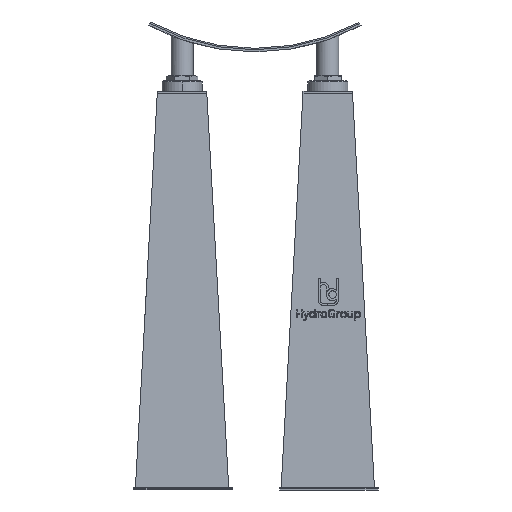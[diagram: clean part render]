
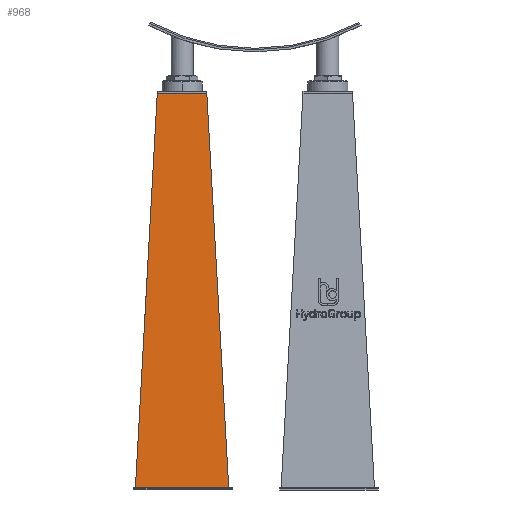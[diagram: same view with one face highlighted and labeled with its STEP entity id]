
A CAD part, front view. The second image highlights one B-rep face of the part: STEP entity #968.
In plain terms, the highlighted planar face has unit normal (0, -0.999, 0.055).
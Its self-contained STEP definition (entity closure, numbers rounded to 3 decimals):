
#968=ADVANCED_FACE('',(#2100),#2101,.F.);
#2100=FACE_OUTER_BOUND('',#3480,.T.);
#2101=PLANE('',#3481);
#3480=EDGE_LOOP('',(#6275,#6276,#6277,#6278));
#3481=AXIS2_PLACEMENT_3D('',#6279,#6280,#6281);
#6275=ORIENTED_EDGE('',*,*,#9015,.F.);
#6276=ORIENTED_EDGE('',*,*,#9049,.F.);
#6277=ORIENTED_EDGE('',*,*,#9043,.F.);
#6278=ORIENTED_EDGE('',*,*,#8769,.T.);
#6279=CARTESIAN_POINT('',(159.177,233.546,445.729));
#6280=DIRECTION('',(0.,0.998,-0.055));
#6281=DIRECTION('',(1.0,0.,0.));
#8769=EDGE_CURVE('',#10478,#10475,#10479,.F.);
#9015=EDGE_CURVE('',#10802,#10475,#10804,.F.);
#9043=EDGE_CURVE('',#10478,#10837,#10842,.T.);
#9049=EDGE_CURVE('',#10837,#10802,#10848,.T.);
#10475=VERTEX_POINT('',#13722);
#10478=VERTEX_POINT('',#13726);
#10479=LINE('',#13727,#13728);
#10802=VERTEX_POINT('',#14313);
#10804=LINE('',#14316,#14317);
#10837=VERTEX_POINT('',#14365);
#10842=LINE('',#14373,#14374);
#10848=LINE('',#14381,#14382);
#13722=CARTESIAN_POINT('',(-33.828,173.536,-636.437));
#13726=CARTESIAN_POINT('',(26.172,233.536,445.563));
#13727=CARTESIAN_POINT('',(26.389,233.754,449.477));
#13728=VECTOR('',#16732,1.);
#14313=CARTESIAN_POINT('',(222.181,173.536,-636.437));
#14316=CARTESIAN_POINT('',(126.677,173.536,-636.437));
#14317=VECTOR('',#16908,1.0);
#14365=CARTESIAN_POINT('',(162.181,233.536,445.563));
#14373=CARTESIAN_POINT('',(126.677,233.536,445.563));
#14374=VECTOR('',#16927,1.0);
#14381=CARTESIAN_POINT('',(161.964,233.754,449.477));
#14382=VECTOR('',#16929,1.);
#16732=DIRECTION('',(0.055,0.055,0.997));
#16908=DIRECTION('',(1.0,0.,0.));
#16927=DIRECTION('',(1.0,0.,0.));
#16929=DIRECTION('',(0.055,-0.055,-0.997));
